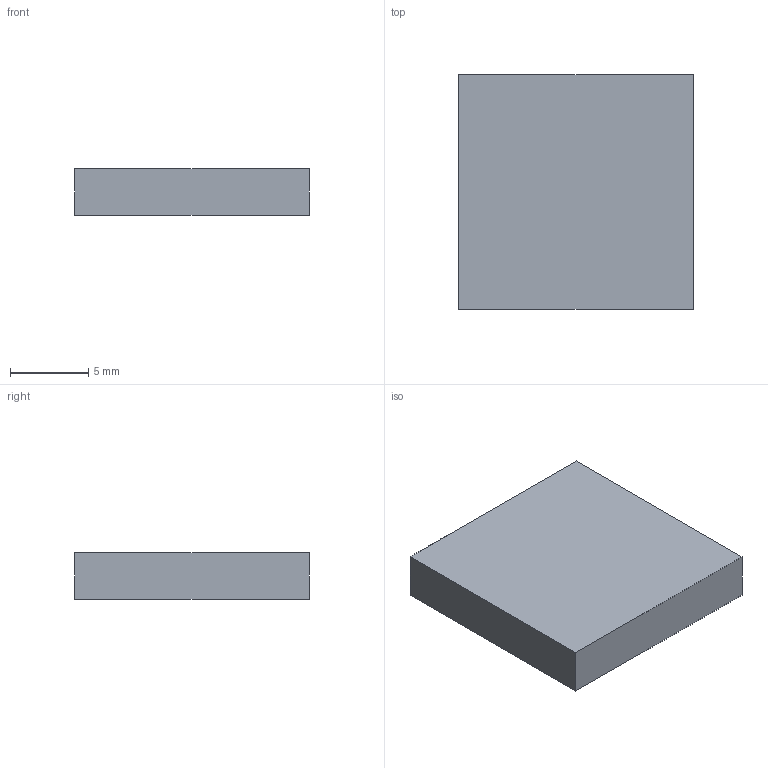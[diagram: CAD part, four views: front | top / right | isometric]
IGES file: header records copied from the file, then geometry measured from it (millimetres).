
Start section: Data from Parasolid IGES Translator 20.0.26, Copyright(c) 2006 Siemens P LM Software. All Rights Reserved.
Global section: file name: 9298864.igs; native system: By Siemens PLM Incorporated; preprocessor: XPlus GENERIC/IGES 20.0.26; author: Noname; organization: Noname; date: 20210825.125637; units: millimetre
Bounding box: 15 x 15 x 3 mm (x, y, z)
Surface area: 630 mm2 (no closed solid volume)
Topology: 0 solids, 0 shells, 6 faces, 24 edges, 24 vertices
Faces by surface type: extrusion 6
